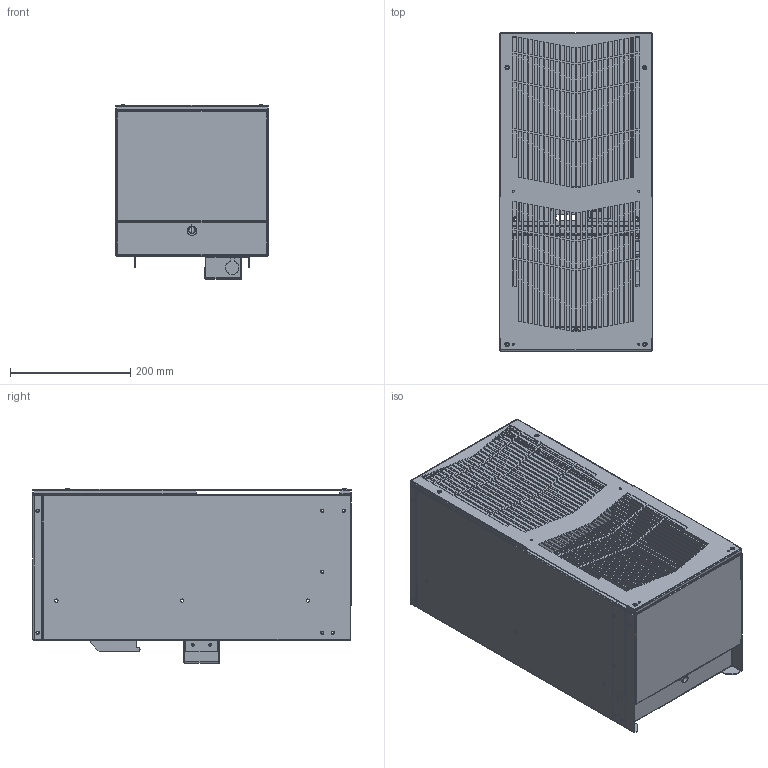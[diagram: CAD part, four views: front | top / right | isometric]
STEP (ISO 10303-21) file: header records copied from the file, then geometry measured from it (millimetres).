
FILE_DESCRIPTION (( 'STEP AP203' ), '1' );
FILE_NAME ('n2102x6g06x.STEP', '2017-06-15T13:38:45', ( '' ), ( '' ), 'SwSTEP 2.0', 'SolidWorks 2014', '' );
FILE_SCHEMA (( 'CONFIG_CONTROL_DESIGN' ));
Length unit declared in the file: inch
Products named in the file (23): 89112106; H60632004EB; 10-1015-208_PEM CLSS-024-1 ---N; 89112105; 89112098; 89112101; 89050853; 89112102; 89135517; 89112104; 89135056; 89141265; 89112103; n2102x6g06x; 99407770_99407770; 89109504; 89141264; 10-1044-12; 89105056; 89109505; 20-1028-00; 89112099; 89095669_89095669
Assembly tree (34 placements, depth 3):
  n2102x6g06x
    89112101
      89112102
      89095669_89095669
      10-1015-208_PEM CLSS-024-1 ---N  x3
    89112103
      89112104
      89095669_89095669
      10-1015-208_PEM CLSS-024-1 ---N  x3
    89109505
      89109504
      10-1044-12
    89112098
      89112099
      H60632004EB  x4
    89135517
    89141264
      89141265
      99407770_99407770  x2
    89105056
    20-1028-00
    89112105
      89112106
      89095669_89095669  x2
    89050853
    89135056
Bounding box: 254.76 x 530.86 x 290.53 mm (x, y, z)
Volume: 3916014.7 mm3; surface area: 1832880.5 mm2
Topology: 32 solids, 32 shells, 3727 faces, 10101 edges, 6492 vertices
Faces by surface type: plane 2232, cylinder 1099, torus 184, cone 176, bspline 36
Entity records: 99723 total; most frequent: CARTESIAN_POINT 18269, DIRECTION 16426, ORIENTED_EDGE 16258, EDGE_CURVE 8129, LINE 5530, VECTOR 5530, AXIS2_PLACEMENT_3D 5448, VERTEX_POINT 5211
